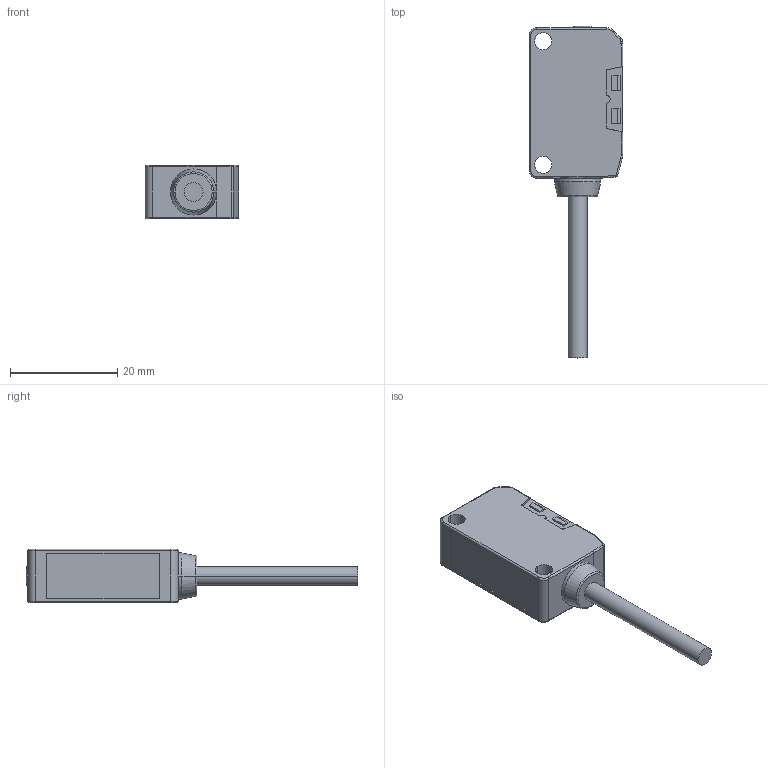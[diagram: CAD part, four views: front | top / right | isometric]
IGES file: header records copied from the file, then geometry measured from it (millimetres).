
Start section: Elysium IGES Interface
Global section: file name: 62HH:\Documents and Settings\y-shirakawa\デスクトップ\S_Cable.igs; native system: CoCreate Modeling 16.50A  01-Dec-2009; preprocessor: CoCreate IGES_3D V2.2; author: Unknown; organization: Unknown; date: 20101202.111458; units: millimetre
Bounding box: 17.4 x 61.84 x 10 mm (x, y, z)
Volume: 5052.9 mm3; surface area: 2426 mm2
Topology: 1 solids, 1 shells, 127 faces, 309 edges, 193 vertices
Faces by surface type: bspline 127
